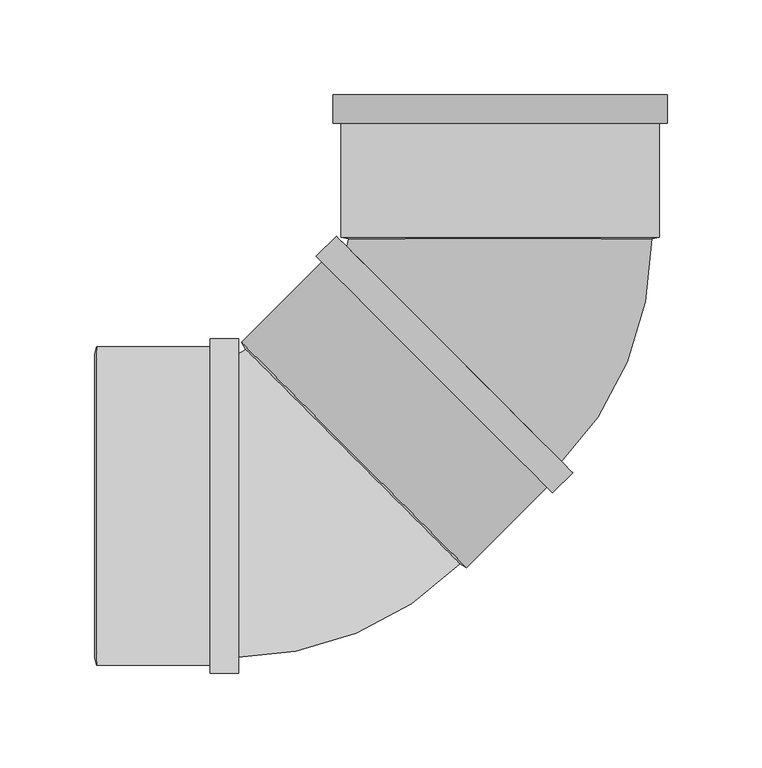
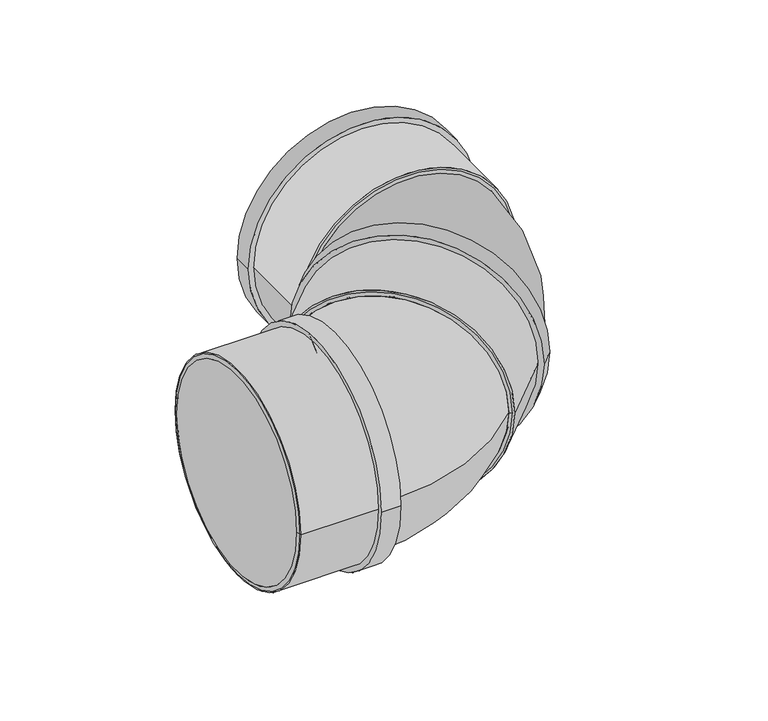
"""IFC4 building model written with IfcOpenShell, lengths in millimetres: pipe fitting geometry, Superdrain HT Bend Composite 2x45 : Superdrain HT Bend Composite 2x45."""

from ifc_helpers import new_model, si_unit, point, frame, origin, origin_2d, place, context, project, spatial, polyline, circle_curve, ellipse_curve, trimmed, segment, composite_curve, outline, extrude, source, transform, mapped, element, save
from ifc_brep_helpers import plane_surface, revolved_surface, advanced_brep


def pipe_fitting_4ea62304(model_context):
    return source(origin(), model_context, "Body", "SolidModel", [
        advanced_brep(
        [(80.0, 140.7739862, 0.0), (-80.0, 140.7739862, 0.0), (30.4763023, 21.2132034, 0.0), (-82.6607827, 134.3502884, 0.0)],
        [
            (0, 1, circle_curve(frame((0.0, 140.7739862, 0.0), z_axis=(0.0, 1.0, 0.0), x_axis=(-1.0, 0.0, 0.0)), 80.0)),
            (1, 0, circle_curve(frame((0.0, 140.7739862, 0.0), z_axis=(0.0, 1.0, 0.0), x_axis=(-1.0, 0.0, 0.0)), 80.0)),
            (2, 3, circle_curve(frame((-26.0922402, 77.7817459, 0.0), z_axis=(-0.7071067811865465, -0.7071067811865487, 0.0), x_axis=(-0.7071067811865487, 0.7071067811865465, 0.0)), 80.0)),
            (3, 2, circle_curve(frame((-26.0922402, 77.7817459, 0.0), z_axis=(-0.7071067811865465, -0.7071067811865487, 0.0), x_axis=(-0.7071067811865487, 0.7071067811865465, 0.0)), 80.0)),
            (3, 1, circle_curve(frame((-89.0844805, 140.7739862, 0.0), z_axis=(0.0, 0.0, 1.0), x_axis=(0.707106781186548, 0.7071067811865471, 0.0)), 9.0844805)),
            (0, 2, circle_curve(frame((-89.0844805, 140.7739862, 0.0), z_axis=(0.0, 0.0, -1.0), x_axis=(0.707106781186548, 0.7071067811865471, 0.0)), 169.0844805)),
        ],
        [
            plane_surface(frame((0.0, 140.7739862, 0.0), z_axis=(0.0, 1.0, 0.0), x_axis=(0.0, 0.0, -1.0))),
            plane_surface(frame((-26.0922402, 77.7817459, 0.0), z_axis=(-0.7071067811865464, -0.7071067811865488, 0.0), x_axis=(0.0, 0.0, -1.0))),
            revolved_surface(trimmed(ellipse_curve(frame((-26.0922402, 203.7662264, 0.0), z_axis=(0.707106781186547, -0.7071067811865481, 0.0), x_axis=(-0.7071067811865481, -0.707106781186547, 0.0)), 80.0, 80.0), [point((-82.6607827, 147.1976839, 0.0))], [point((30.4763023, 260.3347689, 0.0))], True, "CARTESIAN"), (-89.0844805, 140.7739862, 0.0), (0.0, 0.0, 1.0)),
            revolved_surface(trimmed(ellipse_curve(frame((-26.0922402, 203.7662264, 0.0), z_axis=(0.707106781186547, -0.7071067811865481, 0.0), x_axis=(-0.7071067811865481, -0.707106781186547, 0.0)), 80.0, 80.0), [point((30.4763023, 260.3347689, 0.0))], [point((-82.6607827, 147.1976839, 0.0))], True, "CARTESIAN"), (-89.0844805, 140.7739862, 0.0), (0.0, 0.0, 1.0)),
        ],
        [
            (0, [[1, 2]]),
            (1, [[3, 4]]),
            (2, [[-4, 5, -1, 6]]),
            (3, [[-3, -6, -2, -5]]),
        ],
    ),
        extrude(outline(composite_curve([segment(trimmed(circle_curve(origin_2d(), 84.0), [point((0.0, 84.0))], [point((0.0, -84.0))], False, "CARTESIAN"), True, "CONTINUOUS"), segment(trimmed(circle_curve(origin_2d(), 84.0), [point((0.0, -84.0))], [point((0.0, 84.0))], False, "CARTESIAN"), True, "CONTINUOUS")], self_intersect=False), holes=[composite_curve([segment(trimmed(circle_curve(origin_2d(), 80.0), [point((0.0, 80.0))], [point((0.0, -80.0))], True, "CARTESIAN"), True, "CONTINUOUS"), segment(trimmed(circle_curve(origin_2d(), 80.0), [point((0.0, -80.0))], [point((0.0, 80.0))], True, "CARTESIAN"), True, "CONTINUOUS")], self_intersect=False)]), frame((0.0, 141.7739862, 0.0), z_axis=(0.0, 1.0, 0.0), x_axis=(0.0, 0.0, 1.0)), (0.0, 0.0, 1.0), 75.0),
        extrude(outline(composite_curve([segment(trimmed(circle_curve(origin_2d(), 88.2), [point((0.0, -88.2))], [point((0.0, 88.2))], False, "CARTESIAN"), True, "CONTINUOUS"), segment(trimmed(circle_curve(origin_2d(), 88.2), [point((0.0, 88.2))], [point((0.0, -88.2))], False, "CARTESIAN"), True, "CONTINUOUS")], self_intersect=False), holes=[composite_curve([segment(trimmed(circle_curve(origin_2d(), 80.0), [point((0.0, -80.0))], [point((0.0, 80.0))], True, "CARTESIAN"), True, "CONTINUOUS"), segment(trimmed(circle_curve(origin_2d(), 80.0), [point((0.0, 80.0))], [point((0.0, -80.0))], True, "CARTESIAN"), True, "CONTINUOUS")], self_intersect=False)]), frame((0.0, 201.7739862, 0.0), z_axis=(0.0, 1.0, 0.0), x_axis=(0.0, 0.0, 1.0)), (0.0, 0.0, 1.0), 15.0),
        advanced_brep(
        [(84.0, 141.7739862, 0.0), (-84.0, 141.7739862, 0.0), (80.0, 140.7739862, 0.0), (-80.0, 140.7739862, 0.0)],
        [
            (0, 1, circle_curve(frame((0.0, 141.7739862, 0.0), z_axis=(0.0, 1.0, 0.0), x_axis=(1.0, 0.0, 0.0)), 84.0)),
            (1, 0, circle_curve(frame((0.0, 141.7739862, 0.0), z_axis=(0.0, 1.0, 0.0), x_axis=(-1.0000000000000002, 0.0, 0.0)), 84.0)),
            (2, 3, circle_curve(frame((0.0, 140.7739862, 0.0), z_axis=(0.0, -1.0, 0.0), x_axis=(-1.0000000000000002, 0.0, 0.0)), 80.0)),
            (3, 2, circle_curve(frame((0.0, 140.7739862, 0.0), z_axis=(0.0, -1.0, 0.0), x_axis=(1.0, 0.0, 0.0)), 80.0)),
            (3, 1),
            (0, 2),
        ],
        [
            plane_surface(frame((0.0, 141.7739862, 0.0), z_axis=(0.0, 1.0, 0.0), x_axis=(0.0, 0.0, -1.0))),
            plane_surface(frame((0.0, 140.7739862, 0.0), z_axis=(0.0, -1.0, 0.0), x_axis=(0.0, 0.0, -1.0))),
            revolved_surface(polyline([(-80.0, 140.7739862, 0.0), (-84.0, 141.7739862, 0.0)]), (0.0, 120.7739862, 0.0), (0.0, 1.0, 0.0)),
            revolved_surface(polyline([(80.0, 140.7739862, 0.0), (84.0, 141.7739862, 0.0)]), (0.0, 120.7739862, 0.0), (0.0, 1.0, 0.0)),
        ],
        [
            (0, [[1, 2]]),
            (1, [[3, 4]]),
            (2, [[-4, 5, -1, 6]]),
            (3, [[-3, -6, -2, -5]]),
        ],
    ),
        extrude(outline(composite_curve([segment(trimmed(circle_curve(origin_2d(), 80.0), [point((0.0, -79.9999999))], [point((0.0, 80.0))], False, "CARTESIAN"), True, "CONTINUOUS"), segment(trimmed(circle_curve(origin_2d(), 80.0), [point((0.0, 80.0))], [point((0.0, -79.9999999))], False, "CARTESIAN"), True, "CONTINUOUS")], self_intersect=False)), frame((-77.0746391, 26.799347, 0.0), z_axis=(0.707106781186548, 0.7071067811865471, 0.0), x_axis=(0.0, 0.0, -1.0)), (0.0, 0.0, 1.0), 72.1),
        extrude(outline(composite_curve([segment(trimmed(circle_curve(origin_2d(), 84.0), [point((84.0, 0.0))], [point((-84.0, 0.0))], False, "CARTESIAN"), True, "CONTINUOUS"), segment(trimmed(circle_curve(origin_2d(), 84.0), [point((-84.0, 0.0))], [point((84.0, 0.0))], False, "CARTESIAN"), True, "CONTINUOUS")], self_intersect=False), holes=[composite_curve([segment(trimmed(circle_curve(origin_2d(), 80.0), [point((80.0, 0.0))], [point((-80.0, 0.0))], True, "CARTESIAN"), True, "CONTINUOUS"), segment(trimmed(circle_curve(origin_2d(), 80.0), [point((-80.0, 0.0))], [point((80.0, 0.0))], True, "CARTESIAN"), True, "CONTINUOUS")], self_intersect=False)]), frame((-212.8739862, 0.0, 0.0), z_axis=(1.0, 0.0, 0.0), x_axis=(0.0, 1.0, 0.0)), (0.0, 0.0, 1.0), 75.0),
        extrude(outline(composite_curve([segment(trimmed(circle_curve(origin_2d(), 88.2), [point((88.2, 0.0))], [point((-88.2, 0.0))], False, "CARTESIAN"), True, "CONTINUOUS"), segment(trimmed(circle_curve(origin_2d(), 88.2), [point((-88.2, 0.0))], [point((88.2, 0.0))], False, "CARTESIAN"), True, "CONTINUOUS")], self_intersect=False), holes=[composite_curve([segment(trimmed(circle_curve(origin_2d(), 80.0), [point((80.0, 0.0))], [point((-80.0, 0.0))], True, "CARTESIAN"), True, "CONTINUOUS"), segment(trimmed(circle_curve(origin_2d(), 80.0), [point((-80.0, 0.0))], [point((80.0, 0.0))], True, "CARTESIAN"), True, "CONTINUOUS")], self_intersect=False)]), frame((-152.8739862, 0.0, 0.0), z_axis=(1.0, 0.0, 0.0), x_axis=(0.0, 1.0, 0.0)), (0.0, 0.0, 1.0), 15.0),
        advanced_brep(
        [(-213.8739862, 80.0, 0.0), (-213.8739862, -80.0, 0.0), (-212.8739862, 84.0, 0.0), (-212.8739862, -84.0, 0.0)],
        [
            (0, 1, circle_curve(frame((-213.8739862, 0.0, 0.0), z_axis=(-1.0, 0.0, 0.0), x_axis=(0.0, 1.0, 0.0)), 80.0)),
            (1, 0, circle_curve(frame((-213.8739862, 0.0, 0.0), z_axis=(-1.0, 0.0, 0.0), x_axis=(0.0, -1.0, 0.0)), 80.0)),
            (2, 3, circle_curve(frame((-212.8739862, 0.0, 0.0), z_axis=(1.0, 0.0, 0.0), x_axis=(0.0, -1.0, 0.0)), 84.0)),
            (3, 2, circle_curve(frame((-212.8739862, 0.0, 0.0), z_axis=(1.0, 0.0, 0.0), x_axis=(0.0, 1.0, 0.0)), 84.0)),
            (3, 1),
            (0, 2),
        ],
        [
            plane_surface(frame((-213.8739862, 0.0, 0.0), z_axis=(-1.0, 0.0, 0.0), x_axis=(0.0, 0.0, -1.0))),
            plane_surface(frame((-212.8739862, 0.0, 0.0), z_axis=(1.0, 0.0, 0.0), x_axis=(0.0, 0.0, -1.0))),
            revolved_surface(polyline([(-213.8739862, 80.0, 0.0), (-212.8739862, 84.0, 0.0)]), (-233.8739862, 0.0, 0.0), (1.0, 0.0, 0.0)),
            revolved_surface(polyline([(-213.8739862, -80.0, 0.0), (-212.8739862, -84.0, 0.0)]), (-233.8739862, 0.0, 0.0), (1.0, 0.0, 0.0)),
        ],
        [
            (0, [[1, 2]]),
            (1, [[3, 4]]),
            (2, [[-4, 5, -1, 6]]),
            (3, [[-3, -6, -2, -5]]),
        ],
    ),
        advanced_brep(
        [(-21.2132034, -30.4763023, 0.0), (-134.3502884, 82.6607827, 0.0), (-140.7739862, -80.0, 0.0), (-140.7739862, 80.0, 0.0)],
        [
            (0, 1, circle_curve(frame((-77.7817459, 26.0922402, 0.0), z_axis=(0.7071067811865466, 0.7071067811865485, 0.0), x_axis=(-0.7071067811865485, 0.7071067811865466, 0.0)), 80.0)),
            (1, 0, circle_curve(frame((-77.7817459, 26.0922402, 0.0), z_axis=(0.7071067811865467, 0.7071067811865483, 0.0), x_axis=(-0.7071067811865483, 0.7071067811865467, 0.0)), 80.0)),
            (2, 3, circle_curve(frame((-140.7739862, 0.0, 0.0), z_axis=(-1.0, 0.0, 0.0), x_axis=(0.0, 1.0, 0.0)), 80.0)),
            (3, 2, circle_curve(frame((-140.7739862, 0.0, 0.0), z_axis=(-1.0, 0.0, 0.0), x_axis=(0.0, 1.0, 0.0)), 80.0)),
            (3, 1, circle_curve(frame((-140.7739862, 89.0844805, 0.0), z_axis=(0.0, 0.0, 1.0), x_axis=(1.0, 0.0, 0.0)), 9.0844805)),
            (0, 2, circle_curve(frame((-140.7739862, 89.0844805, 0.0), z_axis=(0.0, 0.0, -1.0), x_axis=(1.0, 0.0, 0.0)), 169.0844805)),
        ],
        [
            plane_surface(frame((-77.7817459, 26.0922402, 0.0), z_axis=(0.7071067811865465, 0.7071067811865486, 0.0), x_axis=(0.0, 0.0, -1.0))),
            plane_surface(frame((-140.7739862, 0.0, 0.0), z_axis=(-1.0, 0.0, 0.0), x_axis=(0.0, 0.0, -1.0))),
            revolved_surface(trimmed(ellipse_curve(frame((-51.6895057, 89.0844805, 0.0), z_axis=(0.0, -1.0, 0.0), x_axis=(-1.0, 0.0, 0.0)), 80.0, 80.0), [point((-131.6895057, 89.0844805, 0.0))], [point((28.3104943, 89.0844805, 0.0))], True, "CARTESIAN"), (-140.7739862, 89.0844805, 0.0), (0.0, 0.0, 1.0)),
            revolved_surface(trimmed(ellipse_curve(frame((-51.6895057, 89.0844805, 0.0), z_axis=(0.0, -1.0, 0.0), x_axis=(-1.0, 0.0, 0.0)), 80.0, 80.0), [point((28.3104943, 89.0844805, 0.0))], [point((-131.6895057, 89.0844805, 0.0))], True, "CARTESIAN"), (-140.7739862, 89.0844805, 0.0), (0.0, 0.0, 1.0)),
        ],
        [
            (0, [[1, 2]]),
            (1, [[3, 4]]),
            (2, [[-4, 5, -1, 6]]),
            (3, [[-3, -6, -2, -5]]),
        ],
    ),
        extrude(outline(composite_curve([segment(trimmed(circle_curve(origin_2d(), 84.0), [point((0.0, 84.0))], [point((0.0, -84.0))], False, "CARTESIAN"), True, "CONTINUOUS"), segment(trimmed(circle_curve(origin_2d(), 84.0), [point((0.0, -84.0))], [point((0.0, 84.0))], False, "CARTESIAN"), True, "CONTINUOUS")], self_intersect=False), holes=[composite_curve([segment(trimmed(circle_curve(origin_2d(), 80.0), [point((0.0, 79.9999999))], [point((0.0, -80.0))], True, "CARTESIAN"), True, "CONTINUOUS"), segment(trimmed(circle_curve(origin_2d(), 80.0), [point((0.0, -80.0))], [point((0.0, 79.9999999))], True, "CARTESIAN"), True, "CONTINUOUS")], self_intersect=False)]), frame((-77.0746391, 26.799347, 0.0), z_axis=(0.707106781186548, 0.707106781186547, 0.0), x_axis=(0.0, 0.0, 1.0)), (0.0, 0.0, 1.0), 75.0),
        extrude(outline(composite_curve([segment(trimmed(circle_curve(origin_2d(), 88.2), [point((0.0, -88.2))], [point((0.0, 88.2))], False, "CARTESIAN"), True, "CONTINUOUS"), segment(trimmed(circle_curve(origin_2d(), 88.2), [point((0.0, 88.2))], [point((0.0, -88.2))], False, "CARTESIAN"), True, "CONTINUOUS")], self_intersect=False), holes=[composite_curve([segment(trimmed(circle_curve(origin_2d(), 80.0), [point((0.0, -80.0))], [point((0.0, 80.0))], True, "CARTESIAN"), True, "CONTINUOUS"), segment(trimmed(circle_curve(origin_2d(), 80.0), [point((0.0, 80.0))], [point((0.0, -80.0))], True, "CARTESIAN"), True, "CONTINUOUS")], self_intersect=False)]), frame((-34.6482323, 69.2257539, 0.0), z_axis=(0.7071067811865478, 0.7071067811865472, 0.0), x_axis=(0.0, 0.0, 1.0)), (0.0, 0.0, 1.0), 15.0),
        advanced_brep(
        [(-17.6776695, -32.5976226, 0.0), (-136.4716088, 86.1963166, 0.0), (-21.2132034, -30.4763023, 0.0), (-134.3502884, 82.6607827, 0.0)],
        [
            (0, 1, circle_curve(frame((-77.0746391, 26.799347, 0.0), z_axis=(0.7071067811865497, 0.7071067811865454, 0.0), x_axis=(0.7071067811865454, -0.7071067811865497, 0.0)), 84.0)),
            (1, 0, circle_curve(frame((-77.0746391, 26.799347, 0.0), z_axis=(0.7071067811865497, 0.7071067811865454, 0.0), x_axis=(-0.7071067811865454, 0.7071067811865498, 0.0)), 84.0)),
            (2, 3, circle_curve(frame((-77.7817459, 26.0922402, 0.0), z_axis=(-0.7071067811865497, -0.7071067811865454, 0.0), x_axis=(-0.7071067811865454, 0.7071067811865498, 0.0)), 80.0)),
            (3, 2, circle_curve(frame((-77.7817459, 26.0922402, 0.0), z_axis=(-0.7071067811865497, -0.7071067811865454, 0.0), x_axis=(0.7071067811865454, -0.7071067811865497, 0.0)), 80.0)),
            (3, 1),
            (0, 2),
        ],
        [
            plane_surface(frame((-77.0746391, 26.799347, 0.0), z_axis=(0.7071067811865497, 0.7071067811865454, 0.0), x_axis=(0.0, 0.0, -1.0))),
            plane_surface(frame((-77.7817459, 26.0922402, 0.0), z_axis=(-0.7071067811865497, -0.7071067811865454, 0.0), x_axis=(0.0, 0.0, -1.0))),
            revolved_surface(polyline([(-134.35028855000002, 82.66078285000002, 0.0), (-136.47160895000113, 86.19631685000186, 0.0)]), (-91.9238816, 11.9501046, 0.0), (0.7071067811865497, 0.7071067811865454, 0.0)),
            revolved_surface(polyline([(-21.21320349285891, -30.476302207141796, 0.0), (-17.677669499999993, -32.597622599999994, 0.0)]), (-91.9238816, 11.9501046, 0.0), (0.7071067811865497, 0.7071067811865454, 0.0)),
        ],
        [
            (0, [[1, 2]]),
            (1, [[3, 4]]),
            (2, [[-4, 5, -1, 6]]),
            (3, [[-3, -6, -2, -5]]),
        ],
    ),
        extrude(outline(composite_curve([segment(trimmed(circle_curve(origin_2d(), 80.0), [point((-80.0, 0.0))], [point((80.0, 0.0))], False, "CARTESIAN"), True, "CONTINUOUS"), segment(trimmed(circle_curve(origin_2d(), 80.0), [point((80.0, 0.0))], [point((-80.0, 0.0))], False, "CARTESIAN"), True, "CONTINUOUS")], self_intersect=False)), frame((-212.8739862, 0.0, 0.0), z_axis=(1.0, 0.0, 0.0), x_axis=(0.0, 1.0, 0.0)), (0.0, 0.0, 1.0), 72.1),
    ])


if __name__ == "__main__":
    model = new_model("IFC4")
    model_context = context("Model", 3, world=origin())
    ifc_project = project(units=[si_unit("LENGTHUNIT", "METRE", prefix="MILLI")], contexts=[model_context])
    site = spatial("IfcSite", under=ifc_project)
    building = spatial("IfcBuilding", under=site)
    placement = place(None, origin())
    pipe_fitting_shape = pipe_fitting_4ea62304(model_context)
    element("IfcPipeFitting", 1, ObjectType="Superdrain HT Bend Composite 2x45 : Superdrain HT Bend Composite 2x45", at=placement, inside=building, context=model_context, shape_type="MappedRepresentation", body=[
        mapped(pipe_fitting_shape, transform((0.0, 0.0, 0.0), x_axis=(1.0, 0.0, 0.0), y_axis=(0.0, 1.0, 0.0), z_axis=(0.0, 0.0, 1.0))),
    ])
    save(model, "model.ifc")
